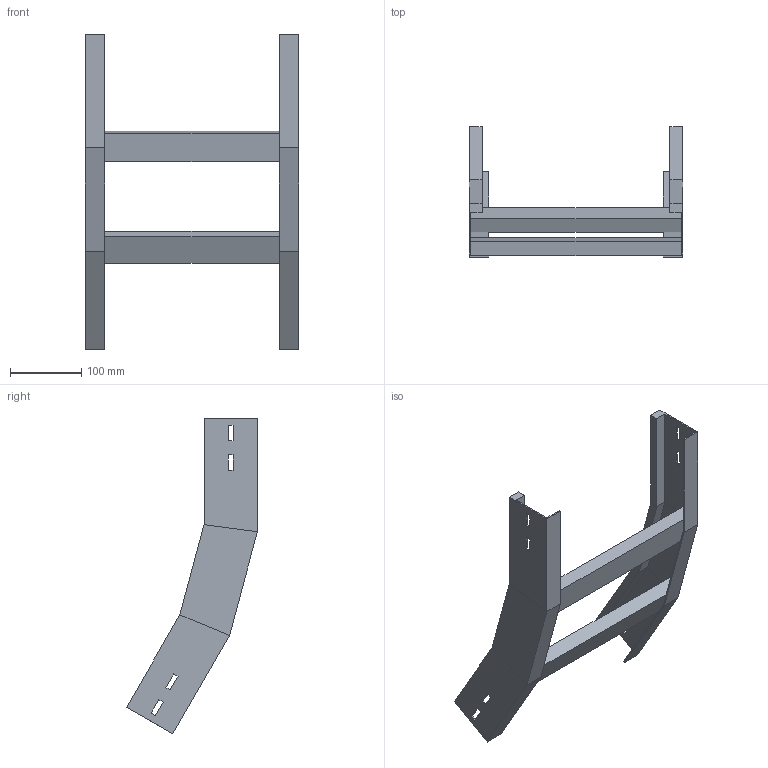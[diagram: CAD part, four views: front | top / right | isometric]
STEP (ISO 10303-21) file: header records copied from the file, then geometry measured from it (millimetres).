
FILE_DESCRIPTION (( 'STEP AP214' ), '1' );
FILE_NAME ('B2X32B5C300XX.step', '2025-03-20T10:03:19', ( '' ), ( '' ), 'SwSTEP 2.0', 'SolidWorks 2023', '' );
FILE_SCHEMA (( 'AUTOMOTIVE_DESIGN' ));
Length unit declared in the file: millimetre
Products named in the file (3): TRAVERSINO_300; LONGH.SALITA_30°_H75_R500; B2X32B5C300XX
Assembly tree (4 placements, depth 2):
  B2X32B5C300XX
    LONGH.SALITA_30°_H75_R500  x2
    TRAVERSINO_300  x2
Bounding box: 300 x 183.88 x 443.86 mm (x, y, z)
Volume: 825919.5 mm3; surface area: 288472.3 mm2
Topology: 4 solids, 4 shells, 96 faces, 232 edges, 144 vertices
Faces by surface type: plane 96
Entity records: 1472 total; most frequent: CARTESIAN_POINT 243, ORIENTED_EDGE 232, DIRECTION 226, EDGE_CURVE 116, LINE 116, VECTOR 116, VERTEX_POINT 72, EDGE_LOOP 56
